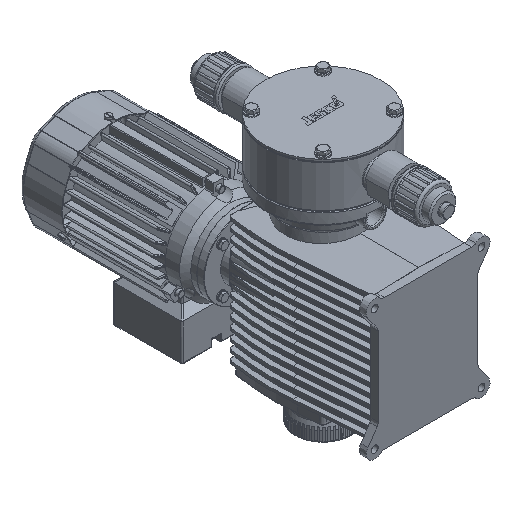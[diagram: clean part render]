
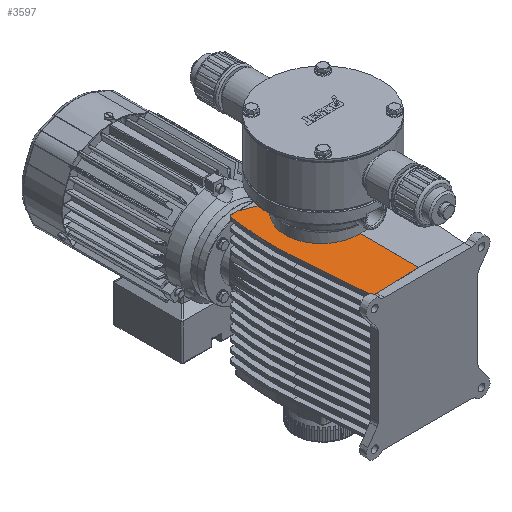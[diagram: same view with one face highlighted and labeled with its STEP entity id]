
A CAD part, isometric view. The second image highlights one B-rep face of the part: STEP entity #3597.
In plain terms, the highlighted planar face has unit normal (-0.035, -0.003, 0.999).
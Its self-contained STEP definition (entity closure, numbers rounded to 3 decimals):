
#3 =( BOUNDED_CURVE ( )  B_SPLINE_CURVE ( 3, ( #64530, #64531, #64532, #64534 ),
 .UNSPECIFIED., .F., .T. ) 
 B_SPLINE_CURVE_WITH_KNOTS ( ( 4, 4 ),
 ( 5.12, 6.053 ),
 .UNSPECIFIED. ) 
 CURVE ( )  GEOMETRIC_REPRESENTATION_ITEM ( )  RATIONAL_B_SPLINE_CURVE ( ( 1., 0.929, 0.929, 1. ) ) 
 REPRESENTATION_ITEM ( '' )  );
#17 =( BOUNDED_CURVE ( )  B_SPLINE_CURVE ( 3, ( #64538, #64539, #64541, #64543 ),
 .UNSPECIFIED., .F., .T. ) 
 B_SPLINE_CURVE_WITH_KNOTS ( ( 4, 4 ),
 ( 6.053, 6.282 ),
 .UNSPECIFIED. ) 
 CURVE ( )  GEOMETRIC_REPRESENTATION_ITEM ( )  RATIONAL_B_SPLINE_CURVE ( ( 1., 0.996, 0.996, 1. ) ) 
 REPRESENTATION_ITEM ( '' )  );
#28 =( BOUNDED_CURVE ( )  B_SPLINE_CURVE ( 3, ( #64557, #64558, #64560, #64562 ),
 .UNSPECIFIED., .F., .T. ) 
 B_SPLINE_CURVE_WITH_KNOTS ( ( 4, 4 ),
 ( 4.792, 7.462 ),
 .UNSPECIFIED. ) 
 CURVE ( )  GEOMETRIC_REPRESENTATION_ITEM ( )  RATIONAL_B_SPLINE_CURVE ( ( 1., 0.489, 0.489, 1. ) ) 
 REPRESENTATION_ITEM ( '' )  );
#2402 = B_SPLINE_CURVE_WITH_KNOTS ( 'NONE', 3,
 ( #64498, #64499, #64500, #64502, #64503, #64504, #64506, #64507, #64508, #64509, #64510, #64512, #64514, #64515, #64517, #64519 ),
 .UNSPECIFIED., .F., .F.,
 ( 4, 2, 2, 2, 2, 2, 2, 4 ),
 ( 0., 0., 0., 0.001, 0.001, 0.002, 0.005, 0.009 ),
 .UNSPECIFIED. ) ;
#2405 = B_SPLINE_CURVE_WITH_KNOTS ( 'NONE', 3,
 ( #64520, #64522, #64524, #64526, #64527, #64528 ),
 .UNSPECIFIED., .F., .F.,
 ( 4, 2, 4 ),
 ( 0., 0.017, 0.034 ),
 .UNSPECIFIED. ) ;
#3597 = ADVANCED_FACE ( 'NONE', ( #119322 ), #19255, .T. ) ;
#19255 = PLANE ( 'NONE',  #24402 ) ;
#19256 = CARTESIAN_POINT ( 'NONE',  ( -2.395, 40.152, 83.214 ) ) ;
#19257 = DIRECTION ( 'NONE',  ( -0.035, -0.003, 0.999 ) ) ;
#19258 = DIRECTION ( 'NONE',  ( 0.999, 0., 0.035 ) ) ;
#24402 = AXIS2_PLACEMENT_3D ( 'NONE', #19256, #19257, #19258 ) ;
#24574 = EDGE_CURVE ( 'NONE', #123138, #123135, #2402, .T. ) ;
#24575 = EDGE_CURVE ( 'NONE', #123140, #123138, #2405, .T. ) ;
#24576 = EDGE_CURVE ( 'NONE', #123135, #123133, #3, .T. ) ;
#24577 = EDGE_CURVE ( 'NONE', #123133, #123131, #17, .T. ) ;
#24578 = EDGE_CURVE ( 'NONE', #123131, #123129, #60524, .T. ) ;
#24579 = EDGE_CURVE ( 'NONE', #123127, #123129, #60525, .T. ) ;
#24580 = EDGE_CURVE ( 'NONE', #123127, #123125, #60527, .T. ) ;
#24581 = EDGE_CURVE ( 'NONE', #123125, #123140, #28, .T. ) ;
#43195 = EDGE_LOOP ( 'NONE', ( #97233, #97235, #97234, #97236, #97237, #97238, #97239, #97240 ) ) ;
#52540 = VECTOR ( 'NONE', #64547, 1000. ) ;
#52541 = VECTOR ( 'NONE', #64551, 1000. ) ;
#52542 = VECTOR ( 'NONE', #64555, 1000. ) ;
#60524 = LINE ( 'NONE', #64546, #52540 ) ;
#60525 = LINE ( 'NONE', #64549, #52541 ) ;
#60527 = LINE ( 'NONE', #64553, #52542 ) ;
#64498 = CARTESIAN_POINT ( 'NONE',  ( -56.325, 99.362, 81.501 ) ) ;
#64499 = CARTESIAN_POINT ( 'NONE',  ( -56.37, 99.379, 81.499 ) ) ;
#64500 = CARTESIAN_POINT ( 'NONE',  ( -56.416, 99.387, 81.498 ) ) ;
#64502 = CARTESIAN_POINT ( 'NONE',  ( -56.509, 99.404, 81.494 ) ) ;
#64503 = CARTESIAN_POINT ( 'NONE',  ( -56.556, 99.411, 81.493 ) ) ;
#64504 = CARTESIAN_POINT ( 'NONE',  ( -56.696, 99.429, 81.488 ) ) ;
#64506 = CARTESIAN_POINT ( 'NONE',  ( -56.79, 99.439, 81.485 ) ) ;
#64507 = CARTESIAN_POINT ( 'NONE',  ( -57.072, 99.466, 81.475 ) ) ;
#64508 = CARTESIAN_POINT ( 'NONE',  ( -57.26, 99.481, 81.468 ) ) ;
#64509 = CARTESIAN_POINT ( 'NONE',  ( -57.824, 99.519, 81.449 ) ) ;
#64510 = CARTESIAN_POINT ( 'NONE',  ( -58.201, 99.539, 81.436 ) ) ;
#64512 = CARTESIAN_POINT ( 'NONE',  ( -59.332, 99.592, 81.397 ) ) ;
#64514 = CARTESIAN_POINT ( 'NONE',  ( -60.086, 99.619, 81.37 ) ) ;
#64515 = CARTESIAN_POINT ( 'NONE',  ( -62.349, 99.69, 81.292 ) ) ;
#64517 = CARTESIAN_POINT ( 'NONE',  ( -63.858, 99.725, 81.239 ) ) ;
#64519 = CARTESIAN_POINT ( 'NONE',  ( -65.367, 99.756, 81.187 ) ) ;
#64520 = CARTESIAN_POINT ( 'NONE',  ( -25.081, 84.841, 82.548 ) ) ;
#64522 = CARTESIAN_POINT ( 'NONE',  ( -30.109, 87.653, 82.381 ) ) ;
#64524 = CARTESIAN_POINT ( 'NONE',  ( -35.249, 90.218, 82.209 ) ) ;
#64526 = CARTESIAN_POINT ( 'NONE',  ( -45.682, 95.018, 81.859 ) ) ;
#64527 = CARTESIAN_POINT ( 'NONE',  ( -50.976, 97.251, 81.681 ) ) ;
#64528 = CARTESIAN_POINT ( 'NONE',  ( -56.325, 99.362, 81.501 ) ) ;
#64530 = CARTESIAN_POINT ( 'NONE',  ( -65.367, 99.756, 81.187 ) ) ;
#64531 = CARTESIAN_POINT ( 'NONE',  ( -66.798, 98.998, 81.135 ) ) ;
#64532 = CARTESIAN_POINT ( 'NONE',  ( -67.735, 97.678, 81.099 ) ) ;
#64534 = CARTESIAN_POINT ( 'NONE',  ( -67.978, 96.077, 81.086 ) ) ;
#64538 = CARTESIAN_POINT ( 'NONE',  ( -67.978, 96.077, 81.086 ) ) ;
#64539 = CARTESIAN_POINT ( 'NONE',  ( -72.258, 67.922, 80.859 ) ) ;
#64541 = CARTESIAN_POINT ( 'NONE',  ( -73.291, 39.463, 80.744 ) ) ;
#64543 = CARTESIAN_POINT ( 'NONE',  ( -71.065, 11.072, 80.743 ) ) ;
#64546 = CARTESIAN_POINT ( 'NONE',  ( -71.065, 11.072, 80.743 ) ) ;
#64547 = DIRECTION ( 'NONE',  ( 0.079, -0.997, 0. ) ) ;
#64549 = CARTESIAN_POINT ( 'NONE',  ( 2.079, -87.766, 83.015 ) ) ;
#64551 = DIRECTION ( 'NONE',  ( -0.999, -0.035, -0.035 ) ) ;
#64553 = CARTESIAN_POINT ( 'NONE',  ( -2.327, 40.152, 83.216 ) ) ;
#64555 = DIRECTION ( 'NONE',  ( 0., 1., 0.003 ) ) ;
#64557 = CARTESIAN_POINT ( 'NONE',  ( -2.327, -9.991, 83.077 ) ) ;
#64558 = CARTESIAN_POINT ( 'NONE',  ( -68.791, -9.968, 80.763 ) ) ;
#64560 = CARTESIAN_POINT ( 'NONE',  ( -84.298, 54.661, 80.403 ) ) ;
#64562 = CARTESIAN_POINT ( 'NONE',  ( -25.081, 84.841, 82.548 ) ) ;
#85077 = CARTESIAN_POINT ( 'NONE',  ( -2.327, -9.991, 83.077 ) ) ;
#85078 = CARTESIAN_POINT ( 'NONE',  ( -2.327, -87.92, 82.861 ) ) ;
#85079 = CARTESIAN_POINT ( 'NONE',  ( -63.006, -90.039, 80.743 ) ) ;
#85080 = CARTESIAN_POINT ( 'NONE',  ( -71.065, 11.072, 80.743 ) ) ;
#85081 = CARTESIAN_POINT ( 'NONE',  ( -67.978, 96.077, 81.086 ) ) ;
#85082 = CARTESIAN_POINT ( 'NONE',  ( -65.367, 99.756, 81.187 ) ) ;
#85083 = CARTESIAN_POINT ( 'NONE',  ( -56.325, 99.362, 81.501 ) ) ;
#85084 = CARTESIAN_POINT ( 'NONE',  ( -25.081, 84.841, 82.548 ) ) ;
#97233 = ORIENTED_EDGE ( 'NONE', *, *, #24575, .T. ) ;
#97234 = ORIENTED_EDGE ( 'NONE', *, *, #24576, .T. ) ;
#97235 = ORIENTED_EDGE ( 'NONE', *, *, #24574, .T. ) ;
#97236 = ORIENTED_EDGE ( 'NONE', *, *, #24577, .T. ) ;
#97237 = ORIENTED_EDGE ( 'NONE', *, *, #24578, .T. ) ;
#97238 = ORIENTED_EDGE ( 'NONE', *, *, #24579, .F. ) ;
#97239 = ORIENTED_EDGE ( 'NONE', *, *, #24580, .T. ) ;
#97240 = ORIENTED_EDGE ( 'NONE', *, *, #24581, .T. ) ;
#119322 = FACE_OUTER_BOUND ( 'NONE', #43195, .T. ) ;
#123125 = VERTEX_POINT ( 'NONE', #85077 ) ;
#123127 = VERTEX_POINT ( 'NONE', #85078 ) ;
#123129 = VERTEX_POINT ( 'NONE', #85079 ) ;
#123131 = VERTEX_POINT ( 'NONE', #85080 ) ;
#123133 = VERTEX_POINT ( 'NONE', #85081 ) ;
#123135 = VERTEX_POINT ( 'NONE', #85082 ) ;
#123138 = VERTEX_POINT ( 'NONE', #85083 ) ;
#123140 = VERTEX_POINT ( 'NONE', #85084 ) ;
